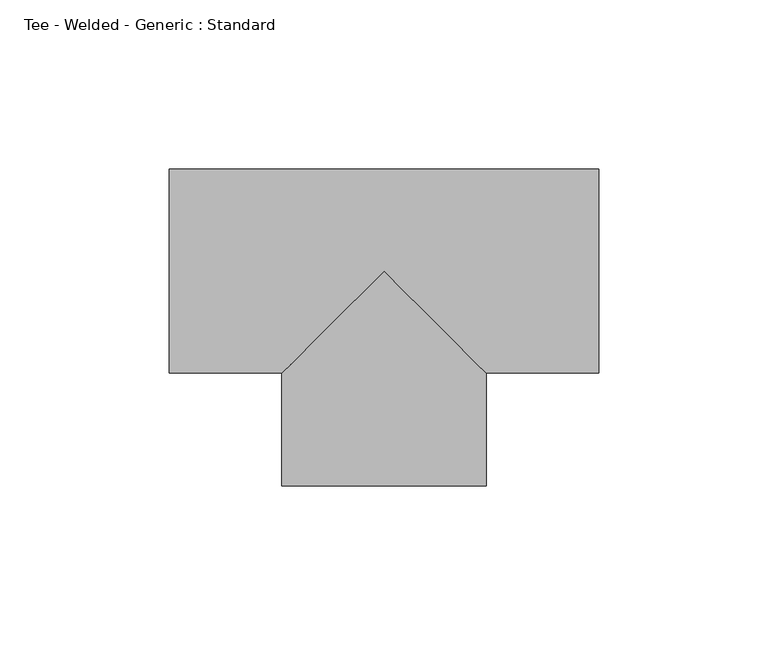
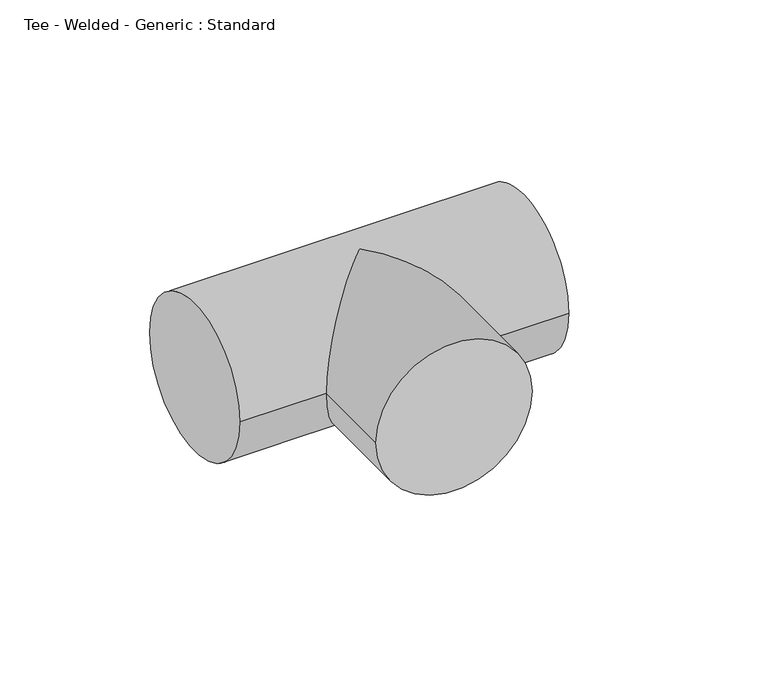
"""IFC4 building model written with IfcOpenShell, lengths in millimetres: pipe fitting geometry, Tee - Welded - Generic : Standard."""

from ifc_helpers import new_model, si_unit, frame, origin, place, context, project, spatial, circle_curve, ellipse_curve, source, transform, mapped, element, save
from ifc_brep_helpers import plane_surface, cylinder_surface, advanced_brep


def tee_welded_generic_standard_15381c57(model_context):
    return source(origin(), model_context, "Body", "AdvancedBrep", [
        advanced_brep(
        [(-63.5, -30.1625, 0.0), (-63.5, 30.1625, 0.0), (63.5, -30.1625, 0.0), (63.5, 30.1625, 0.0), (-30.1632363, -30.1625, 0.0), (0.0, 0.0, 30.1625), (30.1617638, -30.1625, 0.0), (0.0, 0.0, -30.1625), (-30.16405, -63.4992637, 0.0), (30.16095, -63.5007362, 0.0)],
        [
            (0, 1, circle_curve(frame((-63.5, 0.0, 0.0), z_axis=(-1.0, 0.0, 0.0), x_axis=(0.0, 1.0, 0.0)), 30.1625)),
            (1, 0, circle_curve(frame((-63.5, 0.0, 0.0), z_axis=(-1.0, 0.0, 0.0), x_axis=(0.0, 1.0, 0.0)), 30.1625)),
            (2, 3, circle_curve(frame((63.5, 0.0, 0.0), z_axis=(1.0, 0.0, 0.0), x_axis=(0.0, 1.0, 0.0)), 30.1625)),
            (3, 2, circle_curve(frame((63.5, 0.0, 0.0), z_axis=(1.0, 0.0, 0.0), x_axis=(0.0, 1.0, 0.0)), 30.1625)),
            (0, 4),
            (4, 5, ellipse_curve(frame((0.0, 0.0, 0.0), z_axis=(-0.7070981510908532, 0.7071154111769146, 0.0), x_axis=(-0.7071154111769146, -0.707098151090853, 0.0)), 42.6567372, 30.1625)),
            (5, 6, ellipse_curve(frame((0.0, 0.0, 0.0), z_axis=(0.7071154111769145, 0.7070981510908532, 0.0), x_axis=(-0.7070981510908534, 0.7071154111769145, 0.0)), 42.655696, 30.1625)),
            (6, 2),
            (3, 1),
            (6, 7, ellipse_curve(frame((0.0, 0.0, 0.0), z_axis=(0.7071154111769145, 0.7070981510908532, 0.0), x_axis=(-0.7070981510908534, 0.7071154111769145, 0.0)), 42.655696, 30.1625)),
            (7, 4, ellipse_curve(frame((0.0, 0.0, 0.0), z_axis=(-0.7070981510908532, 0.7071154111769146, 0.0), x_axis=(-0.7071154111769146, -0.707098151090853, 0.0)), 42.6567372, 30.1625)),
            (8, 9, circle_curve(frame((-0.00155, -63.5, 0.0), z_axis=(-2.4409447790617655e-05, -0.9999999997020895, 0.0), x_axis=(0.9999999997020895, -2.4409447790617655e-05, 0.0)), 30.1625)),
            (9, 8, circle_curve(frame((-0.00155, -63.5, 0.0), z_axis=(-2.4409447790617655e-05, -0.9999999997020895, 0.0), x_axis=(0.9999999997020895, -2.4409447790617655e-05, 0.0)), 30.1625)),
            (9, 6),
            (4, 8),
        ],
        [
            plane_surface(frame((-63.5, 0.0, 0.0), z_axis=(-1.0, 0.0, 0.0), x_axis=(0.0, 0.0, 1.0))),
            plane_surface(frame((63.5, 0.0, 0.0), z_axis=(1.0, 0.0, 0.0), x_axis=(0.0, 0.0, 1.0))),
            cylinder_surface(frame((-63.5, 0.0, 0.0), z_axis=(-1.0, 0.0, 0.0), x_axis=(0.0, 1.0, 0.0)), 30.1625),
            plane_surface(frame((-0.00155, -63.5, 0.0), z_axis=(-2.4409447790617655e-05, -0.9999999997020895, 0.0), x_axis=(0.0, 0.0, 1.0))),
            cylinder_surface(frame((0.0, 0.0, 0.0), z_axis=(2.4409447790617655e-05, 0.9999999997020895, 0.0), x_axis=(0.9999999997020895, -2.4409447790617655e-05, 0.0)), 30.1625),
        ],
        [
            (0, [[1, 2]]),
            (1, [[3, 4]]),
            (2, [[-1, 5, 6, 7, 8, -4, 9]]),
            (2, [[-2, -9, -3, -8, 10, 11, -5]]),
            (3, [[12, 13]]),
            (4, [[-13, 14, -7, -6, 15]]),
            (4, [[-12, -15, -11, -10, -14]]),
        ],
    ),
    ])


if __name__ == "__main__":
    model = new_model("IFC4")
    model_context = context("Model", 3, world=origin())
    ifc_project = project(units=[si_unit("LENGTHUNIT", "METRE", prefix="MILLI")], contexts=[model_context])
    site = spatial("IfcSite", under=ifc_project)
    building = spatial("IfcBuilding", under=site)
    placement = place(None, origin())
    tee_welded_generic_standard_shape = tee_welded_generic_standard_15381c57(model_context)
    element("IfcPipeFitting", 1, ObjectType="Tee - Welded - Generic : Standard", at=placement, inside=building, context=model_context, shape_type="MappedRepresentation", body=[
        mapped(tee_welded_generic_standard_shape, transform((0.0, 0.0, 0.0), x_axis=(1.0, 0.0, 0.0), y_axis=(0.0, 1.0, 0.0), z_axis=(0.0, 0.0, 1.0))),
    ])
    save(model, "model.ifc")
